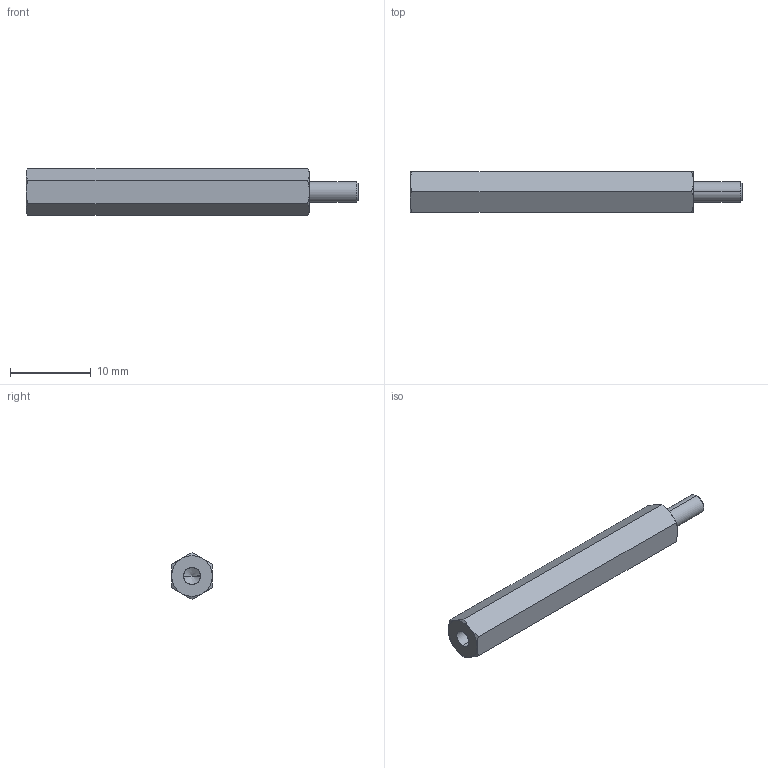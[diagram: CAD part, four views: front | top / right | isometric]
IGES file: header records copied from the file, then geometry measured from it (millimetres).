
Start section: SolidWorks IGES file using analytic representation for surfaces
Global section: file name: C:\Users\render1\Desktop\P0185_IGES\P0185.025-35.igs; native system: SolidWorks 2009; preprocessor: SolidWorks 2009; author: render1; date: 130627.111617; units: millimetre
Bounding box: 41 x 5 x 5.77 mm (x, y, z)
Surface area: 733.8 mm2 (no closed solid volume)
Topology: 0 solids, 0 shells, 29 faces, 324 edges, 322 vertices
Faces by surface type: revolution 20, bspline 9
